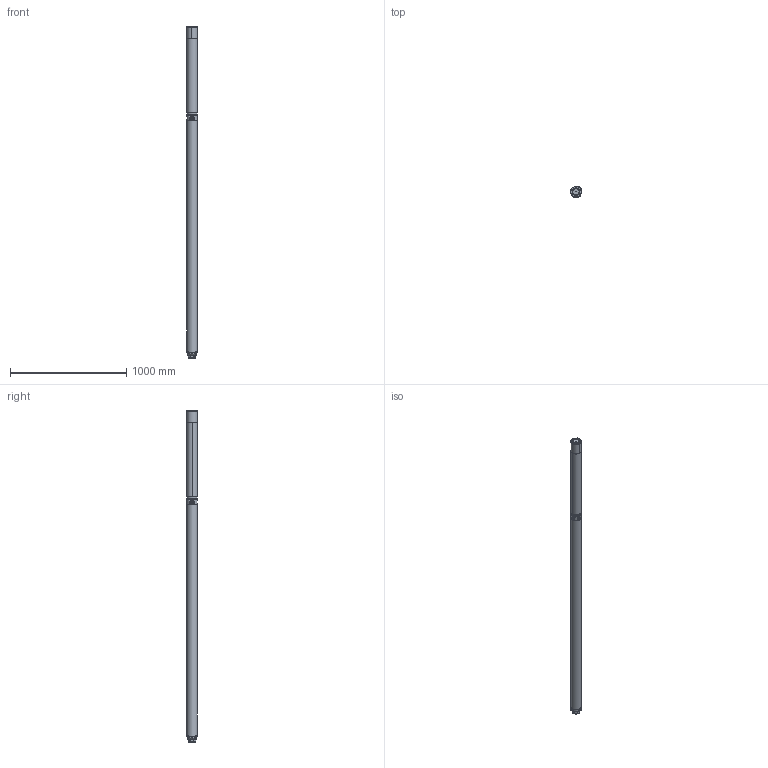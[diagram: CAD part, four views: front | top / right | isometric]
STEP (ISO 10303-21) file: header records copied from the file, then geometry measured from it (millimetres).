
FILE_DESCRIPTION((''),'2;1');
FILE_NAME('16GS75T-L4C_ASM','2013-10-16T',('fmarcoli'),('LOWARA S.R.L.'),'PRO/ENGINEER BY PARAMETRIC TECHNOLOGY CORPORATION, 2012480','PRO/ENGINEER BY PARAMETRIC TECHNOLOGY CORPORATION, 2012480','');
FILE_SCHEMA(('CONFIG_CONTROL_DESIGN'));
Length unit declared in the file: millimetre
Products named in the file (3): 16GS75-A; L4C75T235; 16GS75T-L4C_ASM
Assembly tree (2 placements, depth 2):
  16GS75T-L4C_ASM
    16GS75-A
    L4C75T235
Bounding box: 94.04 x 94.04 x 2857.6 mm (x, y, z)
Volume: 17740962.7 mm3; surface area: 1026661.9 mm2
Topology: 2 solids, 3 shells, 855 faces, 2119 edges, 1287 vertices
Faces by surface type: cylinder 299, plane 266, torus 119, cone 113, bspline 48, sphere 10
Entity records: 28911 total; most frequent: CARTESIAN_POINT 7599, DIRECTION 4428, ORIENTED_EDGE 4230, EDGE_CURVE 2115, AXIS2_PLACEMENT_3D 1828, VERTEX_POINT 1287, CIRCLE 1016, EDGE_LOOP 920
